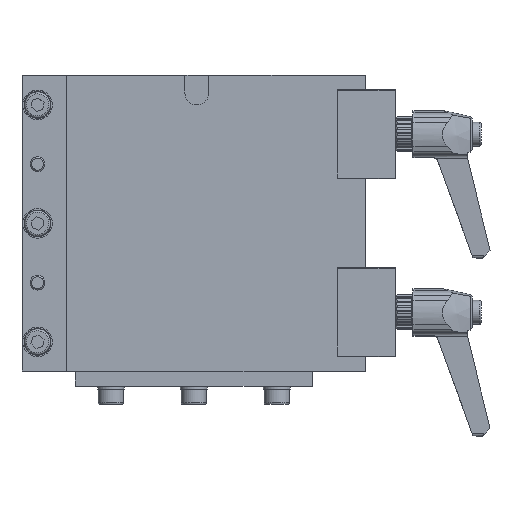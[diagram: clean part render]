
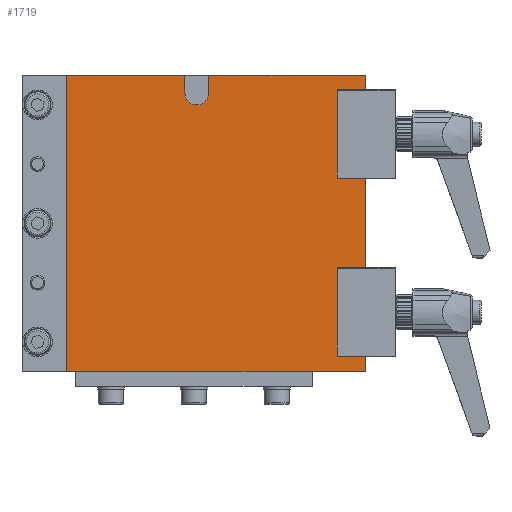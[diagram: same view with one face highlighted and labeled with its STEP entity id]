
A CAD part, top view. The second image highlights one B-rep face of the part: STEP entity #1719.
In plain terms, the highlighted planar face has unit normal (0, 0, 1).
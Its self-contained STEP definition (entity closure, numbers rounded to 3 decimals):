
#1719=ADVANCED_FACE('',(#3263),#3264,.F.);
#3263=FACE_OUTER_BOUND('',#4850,.T.);
#3264=PLANE('',#4851);
#4850=EDGE_LOOP('',(#9966,#9967,#9968,#9969,#9970,#9971,#9972,#9973));
#4851=AXIS2_PLACEMENT_3D('',#9974,#9975,#9976);
#9966=ORIENTED_EDGE('',*,*,#12123,.F.);
#9967=ORIENTED_EDGE('',*,*,#12112,.T.);
#9968=ORIENTED_EDGE('',*,*,#12125,.F.);
#9969=ORIENTED_EDGE('',*,*,#12071,.F.);
#9970=ORIENTED_EDGE('',*,*,#12092,.T.);
#9971=ORIENTED_EDGE('',*,*,#12145,.F.);
#9972=ORIENTED_EDGE('',*,*,#12146,.F.);
#9973=ORIENTED_EDGE('',*,*,#12075,.F.);
#9974=CARTESIAN_POINT('',(-58.0,50.0,0.0));
#9975=DIRECTION('',(0.0,0.0,-1.0));
#9976=DIRECTION('',(-1.0,0.0,0.0));
#12071=EDGE_CURVE('',#14429,#14430,#14431,.T.);
#12075=EDGE_CURVE('',#14436,#14438,#14439,.T.);
#12092=EDGE_CURVE('',#14429,#14464,#14466,.T.);
#12112=EDGE_CURVE('',#14498,#14499,#14500,.T.);
#12123=EDGE_CURVE('',#14498,#14436,#14515,.T.);
#12125=EDGE_CURVE('',#14430,#14499,#14517,.T.);
#12145=EDGE_CURVE('',#14547,#14464,#14548,.T.);
#12146=EDGE_CURVE('',#14438,#14547,#14549,.T.);
#14429=VERTEX_POINT('',#17879);
#14430=VERTEX_POINT('',#17880);
#14431=LINE('',#17881,#17882);
#14436=VERTEX_POINT('',#17889);
#14438=VERTEX_POINT('',#17892);
#14439=LINE('',#17893,#17894);
#14464=VERTEX_POINT('',#17924);
#14466=LINE('',#17927,#17928);
#14498=VERTEX_POINT('',#18094);
#14499=VERTEX_POINT('',#18095);
#14500=CIRCLE('',#18096,4.0);
#14515=LINE('',#18115,#18116);
#14517=LINE('',#18118,#18119);
#14547=VERTEX_POINT('',#18150);
#14548=LINE('',#18151,#18152);
#14549=LINE('',#18153,#18154);
#17879=CARTESIAN_POINT('',(-48.5,50.0,0.0));
#17880=CARTESIAN_POINT('',(-3.0,50.0,0.0));
#17881=CARTESIAN_POINT('',(-58.0,50.0,0.0));
#17882=VECTOR('',#20284,1.0);
#17889=CARTESIAN_POINT('',(5.0,50.0,0.0));
#17892=CARTESIAN_POINT('',(58.0,50.0,0.0));
#17893=CARTESIAN_POINT('',(-58.0,50.0,0.0));
#17894=VECTOR('',#20288,1.0);
#17924=CARTESIAN_POINT('',(-48.5,-50.0,0.0));
#17927=CARTESIAN_POINT('',(-48.5,50.0,0.0));
#17928=VECTOR('',#20313,1.0);
#18094=CARTESIAN_POINT('',(5.0,44.0,0.0));
#18095=CARTESIAN_POINT('',(-3.0,44.0,0.0));
#18096=AXIS2_PLACEMENT_3D('',#20337,#20338,#20339);
#18115=CARTESIAN_POINT('',(5.0,44.0,0.0));
#18116=VECTOR('',#20353,1.0);
#18118=CARTESIAN_POINT('',(-3.0,50.0,0.0));
#18119=VECTOR('',#20354,1.0);
#18150=CARTESIAN_POINT('',(58.0,-50.0,0.0));
#18151=CARTESIAN_POINT('',(58.0,-50.0,0.0));
#18152=VECTOR('',#20386,1.0);
#18153=CARTESIAN_POINT('',(58.0,50.0,0.0));
#18154=VECTOR('',#20387,1.0);
#20284=DIRECTION('',(1.0,0.0,0.0));
#20288=DIRECTION('',(1.0,0.0,0.0));
#20313=DIRECTION('',(0.,-1.0,0.0));
#20337=CARTESIAN_POINT('',(1.,44.0,0.0));
#20338=DIRECTION('',(0.0,0.0,-1.0));
#20339=DIRECTION('',(0.0,-1.0,0.0));
#20353=DIRECTION('',(0.,1.0,0.0));
#20354=DIRECTION('',(0.,-1.0,0.0));
#20386=DIRECTION('',(-1.0,0.,0.0));
#20387=DIRECTION('',(0.,-1.0,0.0));
